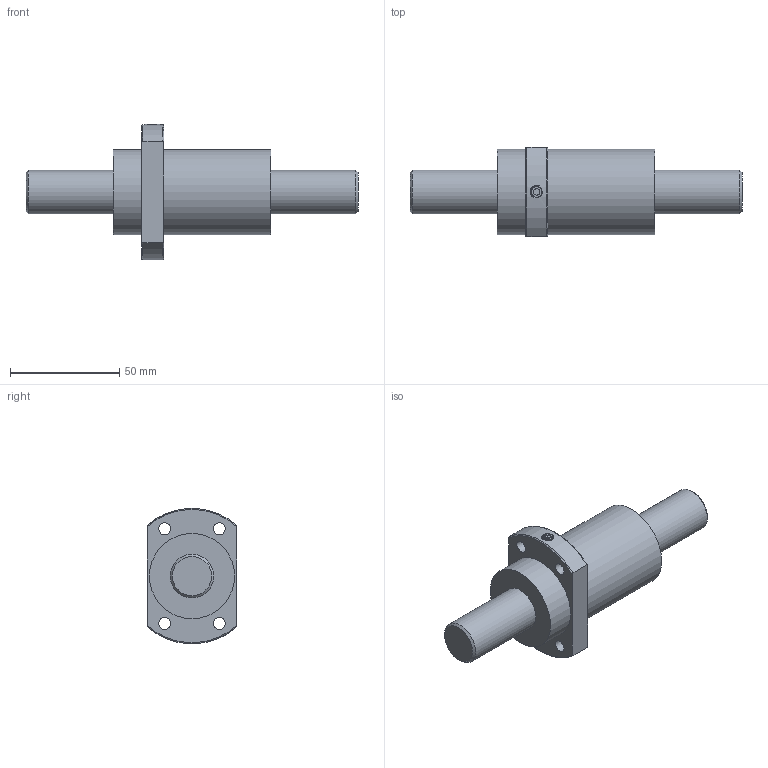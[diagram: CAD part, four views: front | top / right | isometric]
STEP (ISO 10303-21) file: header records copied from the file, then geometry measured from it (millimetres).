
FILE_DESCRIPTION(/* description */ ('Unknown','CAx-IF Rec.Pracs.---Representation and Presentation of Product Manufacturing Information (PMI)---4.0---2014-10-13','CAx-IF Rec.Pracs.---3D Tessellated Geometry---0.4---2014-09-14','2;1'),/* implementation_level */ '2;1');
FILE_NAME(/* name */ 'SFY2020-5.6',/* time_stamp */ '2020-12-06T18:00:34+08:00',/* author */ ('Unknown'),/* organization */ ('Unknown'),/* preprocessor_version */ 'ST-DEVELOPER v16.7',/* originating_system */ 'Solid Edge',/* authorisation */ 'Unknown');
FILE_SCHEMA (('AP242_MANAGED_MODEL_BASED_3D_ENGINEERING_MIM_LF { 1 0 10303 442 1 1 4 }'));
Length unit declared in the file: millimetre
Products named in the file (1): SFY2020-5
Bounding box: 152 x 41 x 61.9 mm (x, y, z)
Volume: 121330.9 mm3; surface area: 19851.2 mm2
Topology: 1 solids, 1 shells, 31 faces, 72 edges, 49 vertices
Faces by surface type: cylinder 13, plane 10, torus 4, cone 2, bspline 2
Full cylindrical faces by diameter (mm): 3 x1, 5.5 x4, 20 x2, 39 x2
Entity records: 3366 total; most frequent: CARTESIAN_POINT 2658, DIRECTION 134, ORIENTED_EDGE 112, AXIS2_PLACEMENT_3D 64, EDGE_CURVE 56, EDGE_LOOP 56, FACE_BOUND 56, VERTEX_POINT 44
